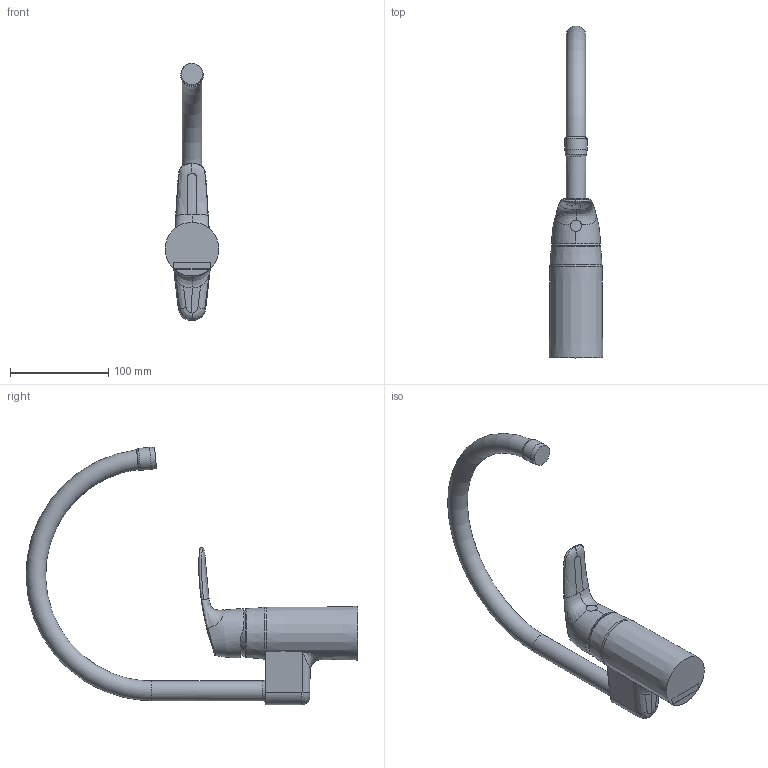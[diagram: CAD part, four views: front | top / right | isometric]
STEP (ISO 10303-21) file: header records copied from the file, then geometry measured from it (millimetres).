
FILE_DESCRIPTION (( 'STEP AP203' ), '1' );
FILE_NAME ('1038(2017)+1038F(2017).STEP', '2017-03-09T05:41:11', ( '' ), ( '' ), 'SwSTEP 2.0', 'SolidWorks 2016', '' );
FILE_SCHEMA (( 'CONFIG_CONTROL_DESIGN' ));
Length unit declared in the file: millimetre
Products named in the file (1): 1038(2017)+1038F(2017)
Bounding box: 54.6 x 337.31 x 261.45 mm (x, y, z)
Volume: 595846.3 mm3; surface area: 79984.4 mm2
Topology: 2 solids, 2 shells, 70 faces, 178 edges, 110 vertices
Faces by surface type: bspline 34, cylinder 11, plane 11, cone 8, torus 6
Full cylindrical faces by diameter (mm): 20 x1, 22.471 x1
Entity records: 11672 total; most frequent: CARTESIAN_POINT 10373, ORIENTED_EDGE 308, EDGE_CURVE 154, DIRECTION 125, B_SPLINE_CURVE_WITH_KNOTS 114, VERTEX_POINT 104, EDGE_LOOP 86, FACE_OUTER_BOUND 78
